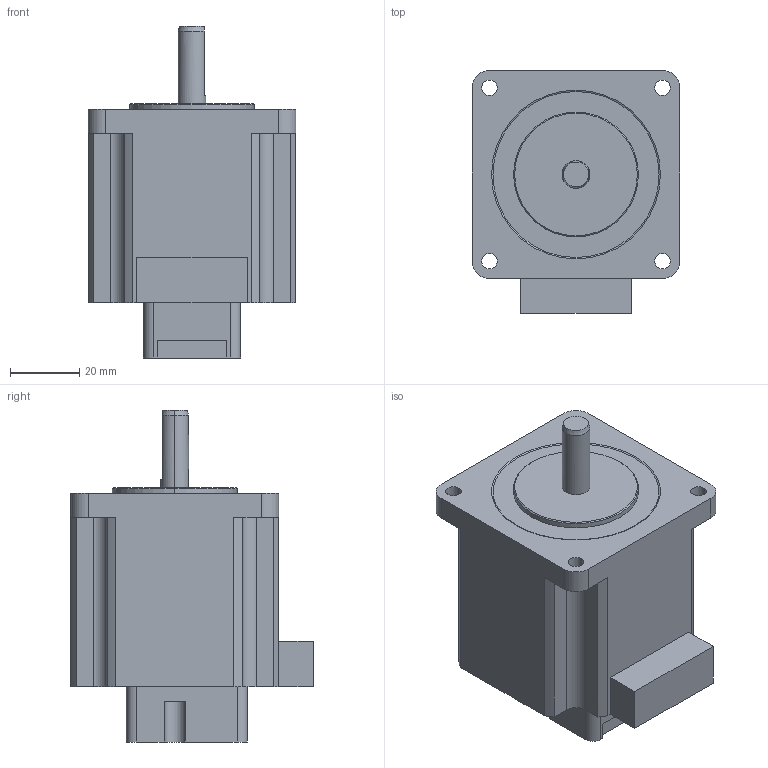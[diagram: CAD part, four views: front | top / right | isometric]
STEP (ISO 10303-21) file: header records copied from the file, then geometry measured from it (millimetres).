
FILE_DESCRIPTION (( 'STEP AP203' ), '1' );
FILE_NAME ('P-PMSA-U60D3HE-NL_3D.STEP', '2020-02-04T02:16:25', ( '' ), ( '' ), 'SwSTEP 2.0', 'SolidWorks 2018', '' );
FILE_SCHEMA (( 'CONFIG_CONTROL_DESIGN' ));
Length unit declared in the file: millimetre
Products named in the file (1): P-PMSA-U60D3HE-NL_3D
Bounding box: 60 x 70 x 95.8 mm (x, y, z)
Volume: 199861.3 mm3; surface area: 23868.9 mm2
Topology: 1 solids, 1 shells, 86 faces, 237 edges, 157 vertices
Faces by surface type: plane 44, cylinder 35, cone 7
Entity records: 2869 total; most frequent: CARTESIAN_POINT 505, DIRECTION 490, ORIENTED_EDGE 474, EDGE_CURVE 237, AXIS2_PLACEMENT_3D 170, VERTEX_POINT 157, VECTOR 150, LINE 150
